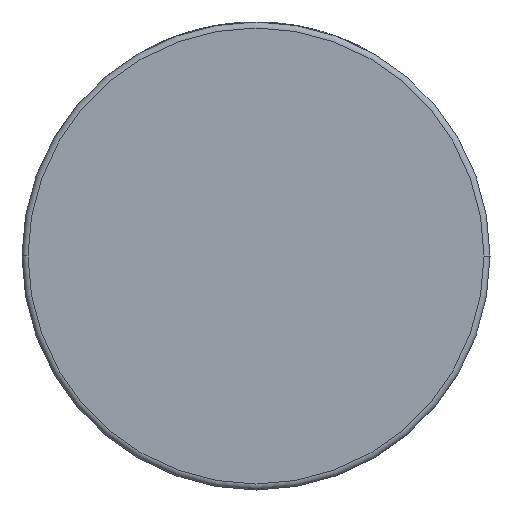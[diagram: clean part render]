
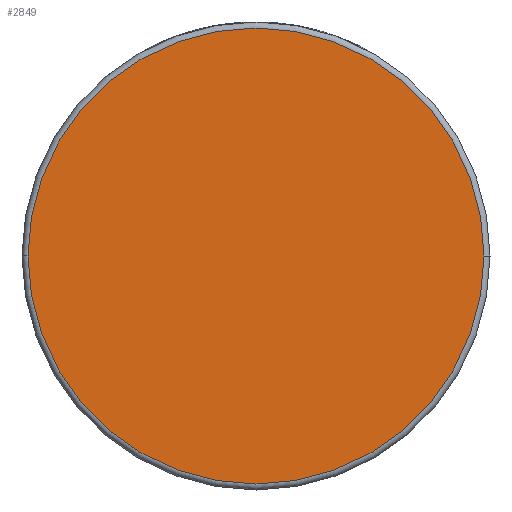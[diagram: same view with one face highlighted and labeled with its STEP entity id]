
A CAD part, front view. The second image highlights one B-rep face of the part: STEP entity #2849.
In plain terms, the highlighted planar face has unit normal (0, -1, 0).
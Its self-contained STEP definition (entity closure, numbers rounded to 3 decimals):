
#190 = EDGE_CURVE ( 'NONE', #1079, #4127, #1322, .T. ) ;
#269 = DIRECTION ( 'NONE',  ( 0., -1., 0. ) ) ;
#292 = CARTESIAN_POINT ( 'NONE',  ( 0., -26.5, 0. ) ) ;
#501 = CARTESIAN_POINT ( 'NONE',  ( 38., -26.5, 0. ) ) ;
#643 = DIRECTION ( 'NONE',  ( 1., 0., 0. ) ) ;
#1061 = CIRCLE ( 'NONE', #3984, 38. ) ;
#1079 = VERTEX_POINT ( 'NONE', #501 ) ;
#1137 = ORIENTED_EDGE ( 'NONE', *, *, #190, .T. ) ;
#1195 = ORIENTED_EDGE ( 'NONE', *, *, #1871, .T. ) ;
#1322 = CIRCLE ( 'NONE', #2296, 38. ) ;
#1552 = DIRECTION ( 'NONE',  ( 0., -1., 0. ) ) ;
#1652 = DIRECTION ( 'NONE',  ( 0., -1., 0. ) ) ;
#1852 = EDGE_LOOP ( 'NONE', ( #1137, #1195 ) ) ;
#1871 = EDGE_CURVE ( 'NONE', #4127, #1079, #1061, .T. ) ;
#1958 = CARTESIAN_POINT ( 'NONE',  ( -38., -26.5, 0. ) ) ;
#2223 = PLANE ( 'NONE',  #4183 ) ;
#2259 = DIRECTION ( 'NONE',  ( 1., 0., 0. ) ) ;
#2296 = AXIS2_PLACEMENT_3D ( 'NONE', #292, #1652, #643 ) ;
#2532 = CARTESIAN_POINT ( 'NONE',  ( 39., -26.5, 0. ) ) ;
#2849 = ADVANCED_FACE ( 'NONE', ( #4301 ), #2223, .T. ) ;
#3540 = DIRECTION ( 'NONE',  ( 1., 0., 0. ) ) ;
#3596 = CARTESIAN_POINT ( 'NONE',  ( 0., -26.5, 0. ) ) ;
#3984 = AXIS2_PLACEMENT_3D ( 'NONE', #3596, #269, #2259 ) ;
#4127 = VERTEX_POINT ( 'NONE', #1958 ) ;
#4183 = AXIS2_PLACEMENT_3D ( 'NONE', #2532, #1552, #3540 ) ;
#4301 = FACE_OUTER_BOUND ( 'NONE', #1852, .T. ) ;
